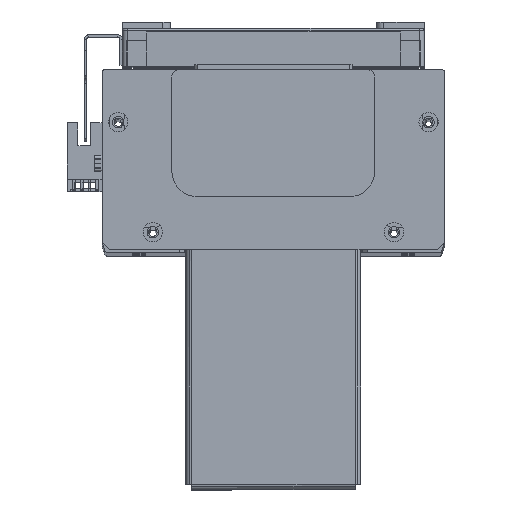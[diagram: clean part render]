
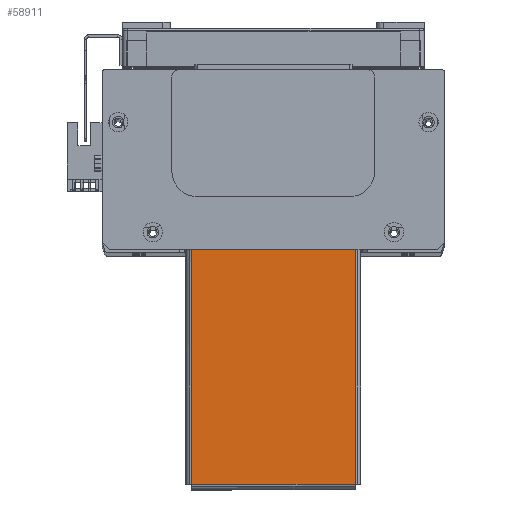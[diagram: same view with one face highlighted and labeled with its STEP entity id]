
A CAD part, top view. The second image highlights one B-rep face of the part: STEP entity #58911.
In plain terms, the highlighted planar face has unit normal (0, 0, 1) as drawn and (0, -1, 0) by its records, which use the part's own axes.
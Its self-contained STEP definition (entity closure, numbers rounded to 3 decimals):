
#1 = VERTEX_POINT ( 'NONE', #3825 ) ;
#3 = VERTEX_POINT ( 'NONE', #3785 ) ;
#22 = VERTEX_POINT ( 'NONE', #3869 ) ;
#3646 = LINE ( 'NONE', #60872, #3709 ) ;
#3709 = VECTOR ( 'NONE', #60797, 1000. ) ;
#3785 = CARTESIAN_POINT ( 'NONE',  ( -94.763, -1.5, -32.263 ) ) ;
#3825 = CARTESIAN_POINT ( 'NONE',  ( -2., -1.5, 32.263 ) ) ;
#3869 = CARTESIAN_POINT ( 'NONE',  ( -94.763, -1.5, 32.263 ) ) ;
#4245 = LINE ( 'NONE', #60469, #4261 ) ;
#4261 = VECTOR ( 'NONE', #60467, 1000. ) ;
#4308 = VECTOR ( 'NONE', #60466, 1000. ) ;
#4393 = LINE ( 'NONE', #60462, #4308 ) ;
#5517 = FACE_OUTER_BOUND ( 'NONE', #47733, .T. ) ;
#13390 = DIRECTION ( 'NONE',  ( 0., 1., 0. ) ) ;
#13393 = DIRECTION ( 'NONE',  ( 0., 0., 1. ) ) ;
#13396 = CARTESIAN_POINT ( 'NONE',  ( 0., -1.5, 0. ) ) ;
#13405 = PLANE ( 'NONE',  #16230 ) ;
#16230 = AXIS2_PLACEMENT_3D ( 'NONE', #13396, #13390, #13393 ) ;
#26943 = ORIENTED_EDGE ( 'NONE', *, *, #30308, .T. ) ;
#26948 = ORIENTED_EDGE ( 'NONE', *, *, #30370, .F. ) ;
#26960 = ORIENTED_EDGE ( 'NONE', *, *, #30393, .T. ) ;
#27038 = ORIENTED_EDGE ( 'NONE', *, *, #30291, .T. ) ;
#30291 = EDGE_CURVE ( 'NONE', #3, #36142, #4245, .T. ) ;
#30308 = EDGE_CURVE ( 'NONE', #22, #3, #4393, .T. ) ;
#30370 = EDGE_CURVE ( 'NONE', #1, #36142, #3646, .T. ) ;
#30393 = EDGE_CURVE ( 'NONE', #1, #22, #59350, .T. ) ;
#36142 = VERTEX_POINT ( 'NONE', #50428 ) ;
#47733 = EDGE_LOOP ( 'NONE', ( #27038, #26948, #26960, #26943 ) ) ;
#50428 = CARTESIAN_POINT ( 'NONE',  ( -2., -1.5, -32.263 ) ) ;
#58911 = ADVANCED_FACE ( 'NONE', ( #5517 ), #13405, .F. ) ;
#59350 = LINE ( 'NONE', #60901, #59354 ) ;
#59354 = VECTOR ( 'NONE', #61005, 1000. ) ;
#60462 = CARTESIAN_POINT ( 'NONE',  ( -94.763, -1.5, 32.293 ) ) ;
#60466 = DIRECTION ( 'NONE',  ( 0., 0., -1. ) ) ;
#60467 = DIRECTION ( 'NONE',  ( 1., 0., 0. ) ) ;
#60469 = CARTESIAN_POINT ( 'NONE',  ( -94.793, -1.5, -32.263 ) ) ;
#60797 = DIRECTION ( 'NONE',  ( 0., 0., -1. ) ) ;
#60872 = CARTESIAN_POINT ( 'NONE',  ( -2., -1.5, 34.5 ) ) ;
#60901 = CARTESIAN_POINT ( 'NONE',  ( 94.793, -1.5, 32.263 ) ) ;
#61005 = DIRECTION ( 'NONE',  ( -1., 0., 0. ) ) ;
